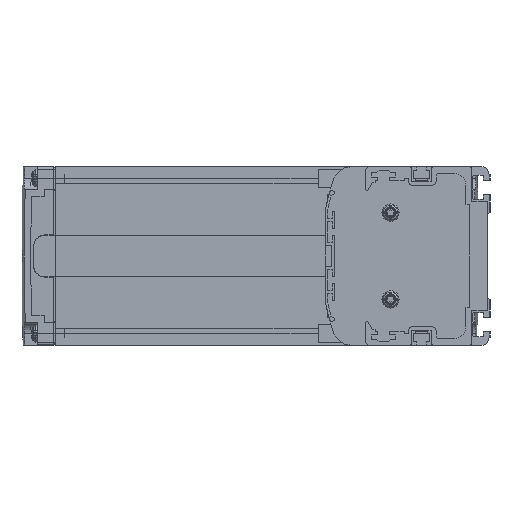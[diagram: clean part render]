
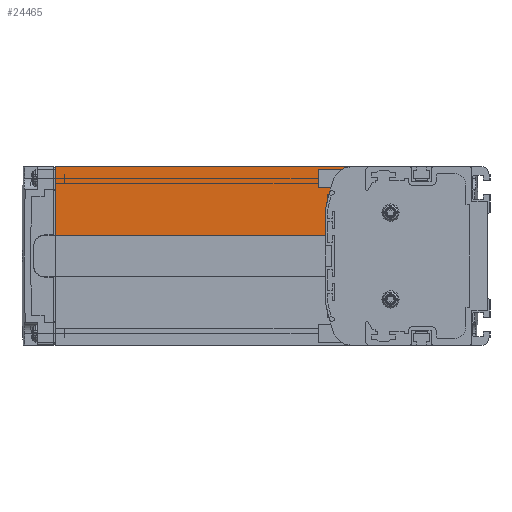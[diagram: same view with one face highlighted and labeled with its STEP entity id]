
A CAD part, left-side view. The second image highlights one B-rep face of the part: STEP entity #24465.
In plain terms, the highlighted planar face has unit normal (-1, 0, 0).
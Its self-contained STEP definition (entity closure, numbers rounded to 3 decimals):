
#1420=DIRECTION('',(0.,-1.,0.));
#1421=VECTOR('',#1420,0.571);
#1422=CARTESIAN_POINT('',(3.,71.,27.));
#1423=LINE('',#1422,#1421);
#1432=DIRECTION('',(0.,0.,1.));
#1433=VECTOR('',#1432,2.224);
#1434=CARTESIAN_POINT('',(3.,71.,24.776));
#1435=LINE('',#1434,#1433);
#1452=DIRECTION('',(0.,0.,-1.));
#1453=VECTOR('',#1452,29.9);
#1454=CARTESIAN_POINT('',(3.,190.,39.));
#1455=LINE('',#1454,#1453);
#5852=DIRECTION('',(0.,-1.,0.));
#5853=VECTOR('',#5852,129.245);
#5854=CARTESIAN_POINT('',(3.,190.,39.));
#5855=LINE('',#5854,#5853);
#7126=DIRECTION('',(0.,0.,-1.));
#7127=VECTOR('',#7126,10.723);
#7128=CARTESIAN_POINT('',(3.,72.,19.823));
#7129=LINE('',#7128,#7127);
#7142=CARTESIAN_POINT('',(3.,70.,19.823));
#7143=DIRECTION('',(1.,0.,0.));
#7144=DIRECTION('',(0.,1.,0.));
#7145=AXIS2_PLACEMENT_3D('',#7142,#7143,#7144);
#7151=CARTESIAN_POINT('',(3.,-6.765,6.));
#7152=DIRECTION('',(1.,0.,0.));
#7153=DIRECTION('',(0.,0.984,0.177));
#7154=AXIS2_PLACEMENT_3D('',#7151,#7152,#7153);
#7156=CARTESIAN_POINT('',(3.,-6.765,6.));
#7157=DIRECTION('',(1.,0.,0.));
#7158=DIRECTION('',(0.,0.965,0.263));
#7159=AXIS2_PLACEMENT_3D('',#7156,#7157,#7158);
#7165=CARTESIAN_POINT('',(3.,60.755,31.));
#7166=DIRECTION('',(-1.,0.,0.));
#7167=DIRECTION('',(0.,0.,1.));
#7168=AXIS2_PLACEMENT_3D('',#7165,#7166,#7167);
#7214=DIRECTION('',(0.,-1.,0.));
#7215=VECTOR('',#7214,118.);
#7216=CARTESIAN_POINT('',(3.,190.,9.1));
#7217=LINE('',#7216,#7215);
#18063=CARTESIAN_POINT('',(3.,190.,39.));
#18064=VERTEX_POINT('',#18063);
#18065=CARTESIAN_POINT('',(3.,190.,9.1));
#18066=VERTEX_POINT('',#18065);
#18095=CARTESIAN_POINT('',(3.,71.,27.));
#18097=VERTEX_POINT('',#18095);
#22205=CARTESIAN_POINT('',(3.,70.429,27.));
#22207=VERTEX_POINT('',#22205);
#22214=CARTESIAN_POINT('',(3.,71.,24.776));
#22216=VERTEX_POINT('',#22214);
#22224=CARTESIAN_POINT('',(3.,72.,9.1));
#22225=VERTEX_POINT('',#22224);
#22234=CARTESIAN_POINT('',(3.,72.,19.823));
#22235=CARTESIAN_POINT('',(3.,71.968,20.177));
#22236=VERTEX_POINT('',#22234);
#22237=VERTEX_POINT('',#22235);
#22238=CARTESIAN_POINT('',(3.,68.257,33.778));
#22239=VERTEX_POINT('',#22238);
#22240=CARTESIAN_POINT('',(3.,60.755,39.));
#22241=VERTEX_POINT('',#22240);
#24441=CARTESIAN_POINT('',(3.,105.,24.05));
#24442=DIRECTION('',(1.,0.,0.));
#24443=DIRECTION('',(0.,0.,1.));
#24444=AXIS2_PLACEMENT_3D('',#24441,#24442,#24443);
#24445=PLANE('',#24444);
#24447=ORIENTED_EDGE('',*,*,#24446,.F.);
#24449=ORIENTED_EDGE('',*,*,#24448,.T.);
#24451=ORIENTED_EDGE('',*,*,#24450,.F.);
#24452=ORIENTED_EDGE('',*,*,#22770,.F.);
#24454=ORIENTED_EDGE('',*,*,#24453,.T.);
#24456=ORIENTED_EDGE('',*,*,#24455,.T.);
#24458=ORIENTED_EDGE('',*,*,#24457,.F.);
#24459=ORIENTED_EDGE('',*,*,#24390,.F.);
#24460=ORIENTED_EDGE('',*,*,#24408,.F.);
#24462=ORIENTED_EDGE('',*,*,#24461,.F.);
#24463=EDGE_LOOP('',(#24447,#24449,#24451,#24452,#24454,#24456,#24458,#24459,
#24460,#24462));
#24464=FACE_OUTER_BOUND('',#24463,.F.);
#24465=ADVANCED_FACE('',(#24464),#24445,.F.);
#7146=CIRCLE('',#7145,2.);
#7155=CIRCLE('',#7154,80.);
#7160=CIRCLE('',#7159,80.);
#7169=CIRCLE('',#7168,8.);
#22770=EDGE_CURVE('',#18064,#18066,#1455,.T.);
#24390=EDGE_CURVE('',#18097,#22207,#1423,.T.);
#24408=EDGE_CURVE('',#22216,#18097,#1435,.T.);
#24446=EDGE_CURVE('',#22236,#22237,#7146,.T.);
#24448=EDGE_CURVE('',#22236,#22225,#7129,.T.);
#24450=EDGE_CURVE('',#18066,#22225,#7217,.T.);
#24453=EDGE_CURVE('',#18064,#22241,#5855,.T.);
#24455=EDGE_CURVE('',#22241,#22239,#7169,.T.);
#24457=EDGE_CURVE('',#22207,#22239,#7160,.T.);
#24461=EDGE_CURVE('',#22237,#22216,#7155,.T.);
